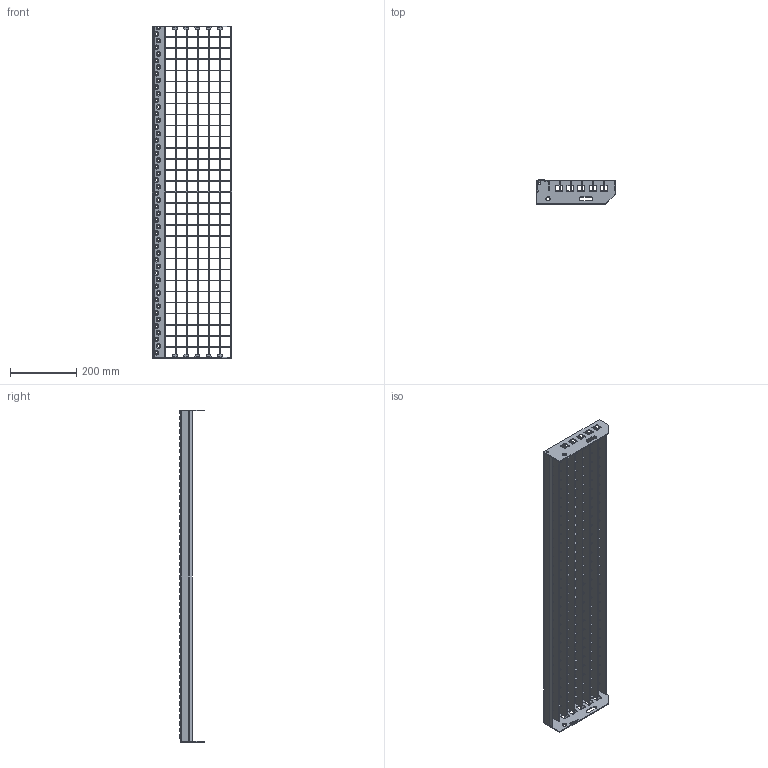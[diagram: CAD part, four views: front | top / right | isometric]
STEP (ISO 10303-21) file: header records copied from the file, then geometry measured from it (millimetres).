
FILE_DESCRIPTION(/* description */ ('','CAx-IF Rec.Pracs.---Representation and Presentation of Product Manufacturing Information (PMI)---3.8---2014-02-18'),/* implementation_level */ '2;1');
FILE_NAME(/* name */ 'C:\Users\phaverkotte\Desktop\Lager STEP\P-Stufen\P 330-33-3\P 330-33-3 1000mm x 240mm.stp',/* time_stamp */ '2018-03-24T10:01:52+01:00',/* author */ ('phaverkotte'),/* organization */ (''),/* preprocessor_version */ 'ST-DEVELOPER v16.13',/* originating_system */ 'Autodesk Inventor 2018',/* authorisation */ '');
FILE_SCHEMA (('AP242_MANAGED_MODEL_BASED_3D_ENGINEERING_MIM_LF { 1 0 10303 442 1 1 4 }'));
Length unit declared in the file: millimetre
Products named in the file (8): Schodišťový stupeň přím
ý lisovaný; Seitenplatte ausgeklinkt links; Seitenplatte 240 ausgeklinkt extern rechts; Schod nášlap; P Rošt schodu; Querstab; P Nosný pás; Hinteres Flach
Assembly tree (40 placements, depth 3):
  Schodišťový stupeň přím
ý lisovaný
    Seitenplatte ausgeklinkt links
    Seitenplatte 240 ausgeklinkt extern rechts
    Schod nášlap
    P Rošt schodu
      Querstab  x29
      P Nosný pás  x6
      Hinteres Flach
Bounding box: 237.98 x 72.75 x 1000 mm (x, y, z)
Volume: 936932.4 mm3; surface area: 793547.2 mm2
Topology: 39 solids, 39 shells, 1530 faces, 4197 edges, 2762 vertices
Faces by surface type: plane 1198, cone 150, cylinder 112, torus 50, bspline 20
Full cylindrical faces by diameter (mm): 8 x2, 13 x2
Entity records: 26137 total; most frequent: CARTESIAN_POINT 7341, DIRECTION 3752, ORIENTED_EDGE 3524, EDGE_CURVE 1762, AXIS2_PLACEMENT_3D 1256, LINE 1240, VECTOR 1240, VERTEX_POINT 1239
